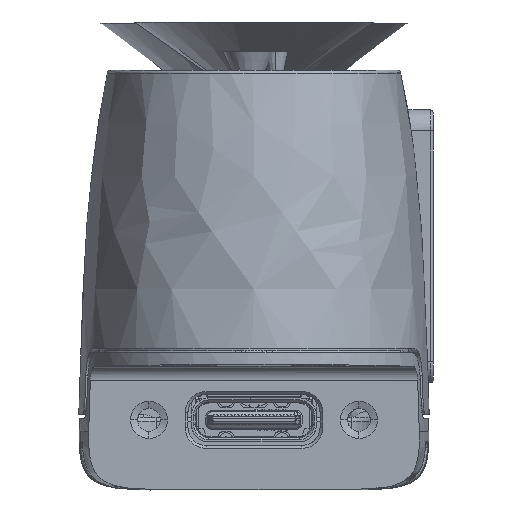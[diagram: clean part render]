
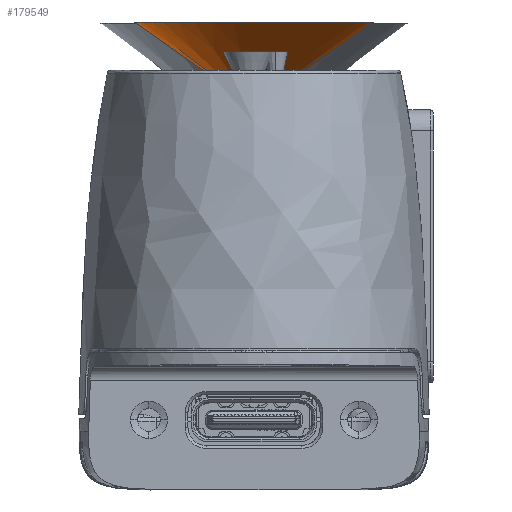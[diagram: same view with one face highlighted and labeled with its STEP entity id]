
A CAD part, left-side view. The second image highlights one B-rep face of the part: STEP entity #179549.
In plain terms, the highlighted conical face has half-angle 54.8 degrees and reference radius 4.338 mm.
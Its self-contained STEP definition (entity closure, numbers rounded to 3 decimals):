
#179509=VECTOR('Line Direction',#179508,1.) ;
#179525=VECTOR('Line Direction',#179524,1.) ;
#179508=DIRECTION('Vector Direction',(-0.817,0.,0.576)) ;
#179524=DIRECTION('Vector Direction',(0.817,0.,0.576)) ;
#179535=DIRECTION('Axis2P3D Direction',(0.,0.,1.)) ;
#179536=DIRECTION('Axis2P3D XDirection',(1.,0.,0.)) ;
#179540=DIRECTION('Axis2P3D Direction',(0.,0.,1.)) ;
#179507=CARTESIAN_POINT('Line Origine',(-408574.618,0.,288222.288)) ;
#179511=CARTESIAN_POINT('Vertex',(0.,0.,4.6)) ;
#179513=CARTESIAN_POINT('Vertex',(-8.506,0.,10.6)) ;
#179520=CARTESIAN_POINT('Vertex',(8.506,0.,10.6)) ;
#179523=CARTESIAN_POINT('Line Origine',(408574.618,0.,288222.288)) ;
#179534=CARTESIAN_POINT('Axis2P3D Location',(0.,0.,7.66)) ;
#179539=CARTESIAN_POINT('Axis2P3D Location',(0.,0.,10.6)) ;
#179537=AXIS2_PLACEMENT_3D('Cone Axis2P3D',#179534,#179535,#179536) ;
#179541=AXIS2_PLACEMENT_3D('Circle Axis2P3D',#179539,#179540,$) ;
#179515=EDGE_CURVE('',#179512,#179514,#179510,.T.) ;
#179527=EDGE_CURVE('',#179512,#179521,#179526,.T.) ;
#179543=EDGE_CURVE('',#179514,#179521,#179542,.F.) ;
#179545=ORIENTED_EDGE('',*,*,#179543,.F.) ;
#179546=ORIENTED_EDGE('',*,*,#179515,.F.) ;
#179547=ORIENTED_EDGE('',*,*,#179527,.T.) ;
#179510=LINE('Line',#179507,#179509) ;
#179526=LINE('Line',#179523,#179525) ;
#179549=ADVANCED_FACE('OPEN_SHELL #121513',(#179548),#179538,.F.) ;
#179542=CIRCLE('generated circle',#179541,8.506) ;
#179538=CONICAL_SURFACE('Cone',#179537,4.338,0.956) ;
#179512=VERTEX_POINT('',#179511) ;
#179514=VERTEX_POINT('',#179513) ;
#179521=VERTEX_POINT('',#179520) ;
#179544=EDGE_LOOP('',(#179545,#179546,#179547)) ;
#179548=FACE_OUTER_BOUND('',#179544,.T.) ;
